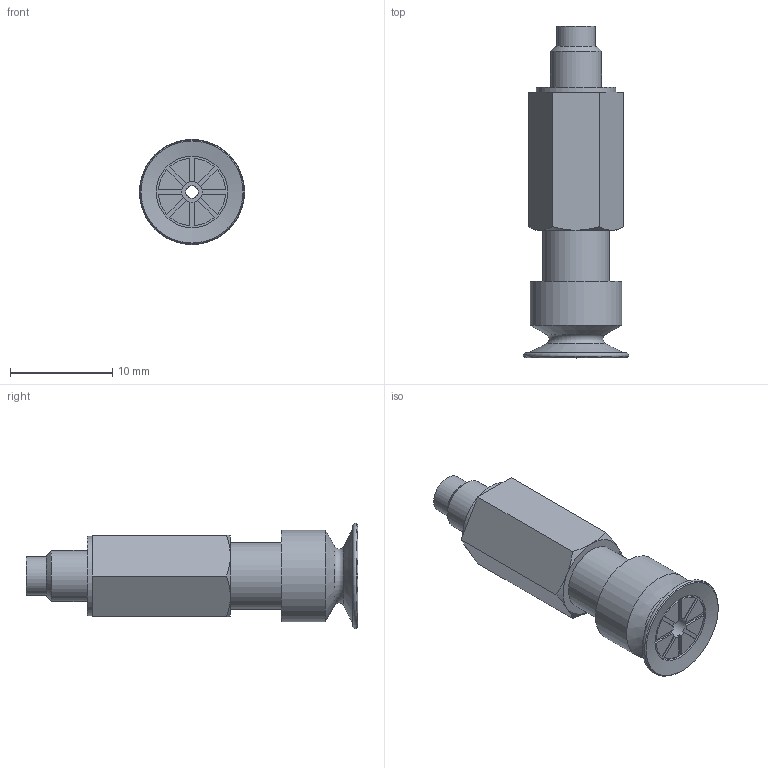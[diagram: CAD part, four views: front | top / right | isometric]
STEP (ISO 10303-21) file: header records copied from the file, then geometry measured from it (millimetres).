
FILE_DESCRIPTION(('STEP AP214'),'1');
FILE_NAME('.stp','2024-08-12T01:23:14',(' '),(' '),'Spatial InterOp 3D',' ',' ');
FILE_SCHEMA(('AUTOMOTIVE_DESIGN { 1 0 10303 214 1 1 1 1 }'));
Length unit declared in the file: millimetre
Products named in the file (4): BPSS-L5-BPAG-10B-※; PSS-10A-L5-M; PSS-10A-L5-F; BPAG-10B-※
Assembly tree (3 placements, depth 2):
  BPSS-L5-BPAG-10B-※
    PSS-10A-L5-M
    PSS-10A-L5-F
    BPAG-10B-※
Bounding box: 10.3 x 32.5 x 10.3 mm (x, y, z)
Volume: 1295 mm3; surface area: 1913.7 mm2
Topology: 3 solids, 3 shells, 89 faces, 203 edges, 130 vertices
Faces by surface type: plane 46, cylinder 24, cone 11, torus 8
Full cylindrical faces by diameter (mm): 1.2 x1, 2 x1, 2.4 x2, 3.4 x1, 3.8 x1, 4 x2, 5 x1, 6 x2, 6.5 x2, 7 x1, 7.8 x1, 9 x1
Entity records: 3410 total; most frequent: DIRECTION 424, CARTESIAN_POINT 411, ORIENTED_EDGE 338, AXIS2_PLACEMENT_3D 174, EDGE_CURVE 169, STYLED_ITEM 144, PRESENTATION_STYLE_ASSIGNMENT 144, COLOUR_RGB 144
